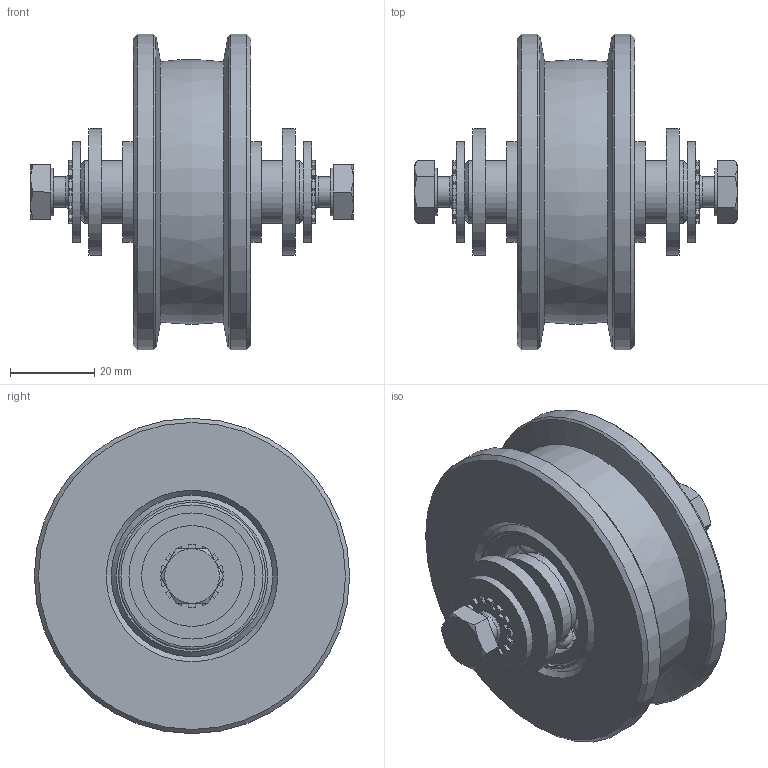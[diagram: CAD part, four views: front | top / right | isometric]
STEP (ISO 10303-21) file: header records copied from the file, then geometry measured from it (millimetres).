
FILE_DESCRIPTION(/* description */ ('Rolle Ø75'),/* implementation_level */ '2;1');
FILE_NAME(/* name */ 'Q:\sge-ma\Produktmanagement-STB\STB\Workspace\stp\010337634.stp',/* time_stamp */ '2016-07-22T07:46:52+02:00',/* author */ ('avschreier'),/* organization */ (''),/* preprocessor_version */ 'ST-DEVELOPER v16.1',/* originating_system */ 'Autodesk Inventor 2016',/* authorisation */ '');
FILE_SCHEMA (('CONFIG_CONTROL_DESIGN'));
Length unit declared in the file: millimetre
Products named in the file (10): 337000189; 337000188; 337000186; DIN_625-6202_en; DIN_EN_ISO_7090-17_en; DIN_EN_ISO_7093-8,4_en; DIN_EN_ISO_4017-M8x16_en; DIN_6798-A_8,4_en; ISO_8738-16_en; 010337634
Assembly tree (15 placements, depth 2):
  010337634
    337000189
    337000188
    337000186
    DIN_625-6202_en  x2
    DIN_EN_ISO_7090-17_en  x2
    DIN_EN_ISO_7093-8,4_en  x2
    DIN_EN_ISO_4017-M8x16_en  x2
    DIN_6798-A_8,4_en  x2
    ISO_8738-16_en  x2
Bounding box: 76.7 x 75 x 75 mm (x, y, z)
Volume: 105174.4 mm3; surface area: 42837 mm2
Topology: 15 solids, 15 shells, 349 faces, 963 edges, 628 vertices
Faces by surface type: cylinder 154, plane 110, torus 36, cone 34, sphere 14, bspline 1
Full cylindrical faces by diameter (mm): 6.917 x2, 7.323 x2, 8 x2, 8.4 x4, 11.4 x2, 15 x3, 15.2 x1, 16 x2, 17 x2, 21.4 x4, 24 x4, 24.5 x1, 28.6 x4, 30 x2, 31 x1, 35 x4, 75 x2
Entity records: 6585 total; most frequent: CARTESIAN_POINT 1768, DIRECTION 1026, ORIENTED_EDGE 880, EDGE_CURVE 440, AXIS2_PLACEMENT_3D 437, VERTEX_POINT 315, EDGE_LOOP 273, CIRCLE 219
